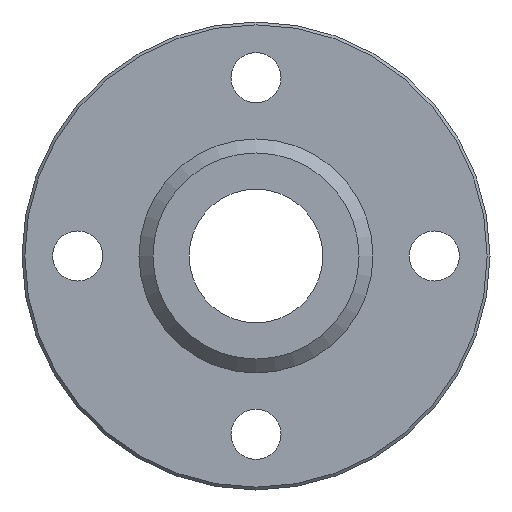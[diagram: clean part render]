
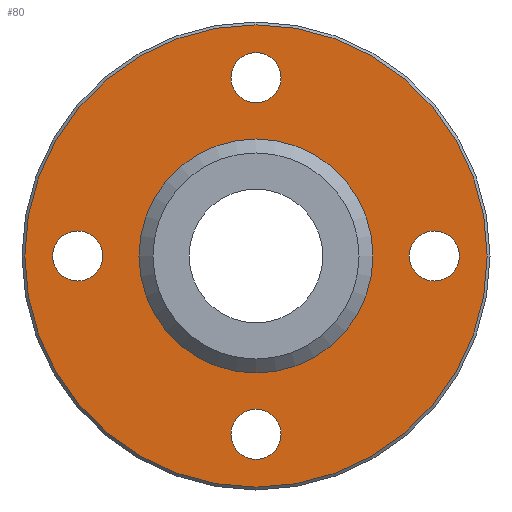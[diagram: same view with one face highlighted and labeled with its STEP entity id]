
A CAD part, left-side view. The second image highlights one B-rep face of the part: STEP entity #80.
In plain terms, the highlighted planar face has unit normal (-1, 0, 0).
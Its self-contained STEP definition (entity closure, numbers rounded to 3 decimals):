
#80=ADVANCED_FACE('',(#116,#117,#118,#119,#120,#121),#122,.F.);
#116=FACE_BOUND('',#187,.T.);
#117=FACE_BOUND('',#188,.T.);
#118=FACE_BOUND('',#189,.T.);
#119=FACE_BOUND('',#190,.T.);
#120=FACE_BOUND('',#191,.T.);
#121=FACE_OUTER_BOUND('',#192,.T.);
#122=PLANE('',#193);
#187=EDGE_LOOP('',(#268));
#188=EDGE_LOOP('',(#269));
#189=EDGE_LOOP('',(#270));
#190=EDGE_LOOP('',(#271));
#191=EDGE_LOOP('',(#272));
#192=EDGE_LOOP('',(#273));
#193=AXIS2_PLACEMENT_3D('',#274,#275,#276);
#268=ORIENTED_EDGE('',*,*,#363,.T.);
#269=ORIENTED_EDGE('',*,*,#364,.T.);
#270=ORIENTED_EDGE('',*,*,#365,.T.);
#271=ORIENTED_EDGE('',*,*,#366,.T.);
#272=ORIENTED_EDGE('',*,*,#362,.F.);
#273=ORIENTED_EDGE('',*,*,#367,.T.);
#274=CARTESIAN_POINT('',(-9.0,20.746,0.0));
#275=DIRECTION('',(1.0,0.0,0.0));
#276=DIRECTION('',(0.0,0.0,-1.0));
#362=EDGE_CURVE('',#397,#397,#398,.T.);
#363=EDGE_CURVE('',#399,#399,#400,.T.);
#364=EDGE_CURVE('',#401,#401,#402,.T.);
#365=EDGE_CURVE('',#403,#403,#404,.T.);
#366=EDGE_CURVE('',#405,#405,#406,.T.);
#367=EDGE_CURVE('',#407,#407,#408,.T.);
#397=VERTEX_POINT('',#447);
#398=CIRCLE('',#448,10.5);
#399=VERTEX_POINT('',#449);
#400=CIRCLE('',#450,2.25);
#401=VERTEX_POINT('',#451);
#402=CIRCLE('',#452,2.25);
#403=VERTEX_POINT('',#453);
#404=CIRCLE('',#454,2.25);
#405=VERTEX_POINT('',#455);
#406=CIRCLE('',#456,2.25);
#407=VERTEX_POINT('',#457);
#408=CIRCLE('',#458,20.746);
#447=CARTESIAN_POINT('',(-9.0,0.0,10.5));
#448=AXIS2_PLACEMENT_3D('',#507,#508,#509);
#449=CARTESIAN_POINT('',(-9.0,-16.0,-2.25));
#450=AXIS2_PLACEMENT_3D('',#510,#511,#512);
#451=CARTESIAN_POINT('',(-9.0,0.0,-18.25));
#452=AXIS2_PLACEMENT_3D('',#513,#514,#515);
#453=CARTESIAN_POINT('',(-9.0,16.0,-2.25));
#454=AXIS2_PLACEMENT_3D('',#516,#517,#518);
#455=CARTESIAN_POINT('',(-9.0,0.0,13.75));
#456=AXIS2_PLACEMENT_3D('',#519,#520,#521);
#457=CARTESIAN_POINT('',(-9.0,0.0,20.746));
#458=AXIS2_PLACEMENT_3D('',#522,#523,#524);
#507=CARTESIAN_POINT('',(-9.0,0.0,0.0));
#508=DIRECTION('',(-1.0,0.0,0.0));
#509=DIRECTION('',(0.0,0.0,1.0));
#510=CARTESIAN_POINT('',(-9.0,-16.0,0.0));
#511=DIRECTION('',(1.0,0.0,0.0));
#512=DIRECTION('',(0.0,0.0,-1.0));
#513=CARTESIAN_POINT('',(-9.0,0.0,-16.0));
#514=DIRECTION('',(1.0,0.0,0.0));
#515=DIRECTION('',(0.0,0.0,-1.0));
#516=CARTESIAN_POINT('',(-9.0,16.0,0.0));
#517=DIRECTION('',(1.0,0.0,0.0));
#518=DIRECTION('',(0.0,0.0,-1.0));
#519=CARTESIAN_POINT('',(-9.0,0.0,16.0));
#520=DIRECTION('',(1.0,0.0,0.0));
#521=DIRECTION('',(0.0,0.0,-1.0));
#522=CARTESIAN_POINT('',(-9.0,0.0,0.0));
#523=DIRECTION('',(-1.0,0.0,0.0));
#524=DIRECTION('',(0.0,0.0,1.0));
